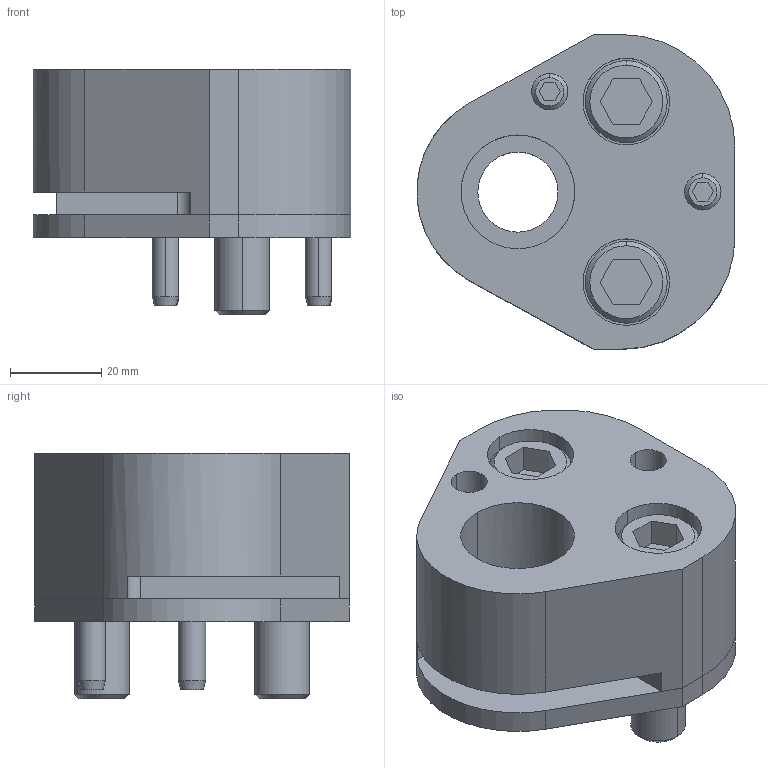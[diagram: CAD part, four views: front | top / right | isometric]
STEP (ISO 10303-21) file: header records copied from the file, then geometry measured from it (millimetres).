
FILE_DESCRIPTION(/* description */ (''),/* implementation_level */ '2;1');
FILE_NAME(/* name */ '3d_crn-fd25_03648_r00.stp',/* time_stamp */ '2011-01-10T14:16:22+09:00',/* author */ ('MISUMI'),/* organization */ (''),/* preprocessor_version */ 'ST-DEVELOPER v11',/* originating_system */ 'UGS - NX 5.0',/* authorisation */ '');
FILE_SCHEMA (('CONFIG_CONTROL_DESIGN'));
Length unit declared in the file: millimetre
Products named in the file (1): 3d_crn-fd25_03648_r00
Bounding box: 69.86 x 69.1 x 54 mm (x, y, z)
Volume: 114447.7 mm3; surface area: 35416.5 mm2
Topology: 8 solids, 8 shells, 156 faces, 359 edges, 232 vertices
Faces by surface type: plane 69, cylinder 61, cone 26
Entity records: 4592 total; most frequent: DIRECTION 816, CARTESIAN_POINT 805, ORIENTED_EDGE 718, EDGE_CURVE 359, AXIS2_PLACEMENT_3D 307, VERTEX_POINT 232, LINE 202, VECTOR 202
